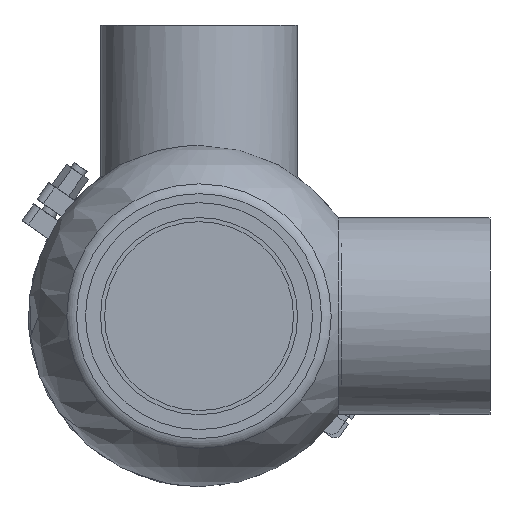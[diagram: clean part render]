
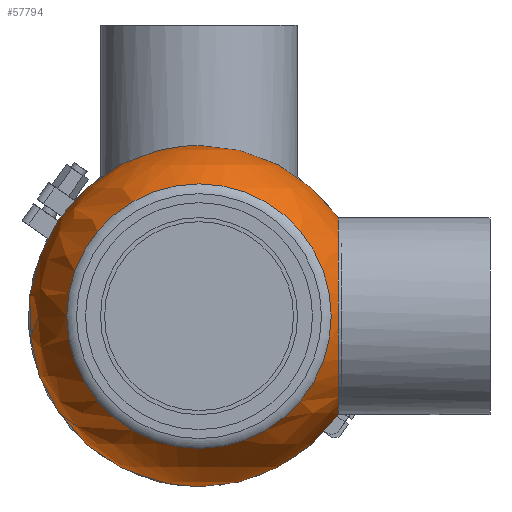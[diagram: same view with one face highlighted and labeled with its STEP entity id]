
A CAD part, front view. The second image highlights one B-rep face of the part: STEP entity #57794.
In plain terms, the highlighted spherical face has radius 88 mm.
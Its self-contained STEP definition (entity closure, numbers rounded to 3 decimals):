
#2567 = AXIS2_PLACEMENT_3D ( 'NONE', #24895, #34781, #53168 ) ;
#2638 = FACE_OUTER_BOUND ( 'NONE', #4271, .T. ) ;
#4271 = EDGE_LOOP ( 'NONE', ( #24596 ) ) ;
#7671 = VERTEX_POINT ( 'NONE', #42902 ) ;
#7700 = CIRCLE ( 'NONE', #51243, 72.25 ) ;
#10607 = EDGE_LOOP ( 'NONE', ( #31844, #53370 ) ) ;
#11286 = DIRECTION ( 'NONE',  ( 0., 1., 0. ) ) ;
#14816 = AXIS2_PLACEMENT_3D ( 'NONE', #21457, #54083, #26096 ) ;
#17059 = CARTESIAN_POINT ( 'NONE',  ( 0., -55.643, 0. ) ) ;
#18568 = CARTESIAN_POINT ( 'NONE',  ( 71.857, 50.239, -7.53 ) ) ;
#21457 = CARTESIAN_POINT ( 'NONE',  ( 0., 0., 0. ) ) ;
#21586 = CIRCLE ( 'NONE', #48355, 68.175 ) ;
#23746 = DIRECTION ( 'NONE',  ( 0., 0., 1. ) ) ;
#24032 = DIRECTION ( 'NONE',  ( 0., 1., 0. ) ) ;
#24409 = CARTESIAN_POINT ( 'NONE',  ( 0., -55.643, 68.175 ) ) ;
#24596 = ORIENTED_EDGE ( 'NONE', *, *, #55160, .T. ) ;
#24895 = CARTESIAN_POINT ( 'NONE',  ( 71.857, 0., 0. ) ) ;
#25476 = DIRECTION ( 'NONE',  ( 0., 0., 1. ) ) ;
#26096 = DIRECTION ( 'NONE',  ( -1., 0., 0. ) ) ;
#31844 = ORIENTED_EDGE ( 'NONE', *, *, #50959, .F. ) ;
#32108 = CARTESIAN_POINT ( 'NONE',  ( 0., 50.239, 0. ) ) ;
#34781 = DIRECTION ( 'NONE',  ( 1., 0., 0. ) ) ;
#42902 = CARTESIAN_POINT ( 'NONE',  ( 71.857, 50.239, 7.53 ) ) ;
#42993 = VERTEX_POINT ( 'NONE', #24409 ) ;
#44729 = FACE_OUTER_BOUND ( 'NONE', #10607, .T. ) ;
#45060 = CIRCLE ( 'NONE', #2567, 50.8 ) ;
#48355 = AXIS2_PLACEMENT_3D ( 'NONE', #17059, #11286, #25476 ) ;
#50959 = EDGE_CURVE ( 'NONE', #7671, #56373, #45060, .T. ) ;
#51243 = AXIS2_PLACEMENT_3D ( 'NONE', #32108, #24032, #23746 ) ;
#53168 = DIRECTION ( 'NONE',  ( 0., 0., 1. ) ) ;
#53370 = ORIENTED_EDGE ( 'NONE', *, *, #54265, .F. ) ;
#54083 = DIRECTION ( 'NONE',  ( 0., 0., 1. ) ) ;
#54265 = EDGE_CURVE ( 'NONE', #56373, #7671, #7700, .T. ) ;
#55160 = EDGE_CURVE ( 'NONE', #42993, #42993, #21586, .T. ) ;
#56373 = VERTEX_POINT ( 'NONE', #18568 ) ;
#57794 = ADVANCED_FACE ( 'NONE', ( #44729, #2638 ), #59622, .T. ) ;
#59622 = SPHERICAL_SURFACE ( 'NONE', #14816, 88. ) ;
